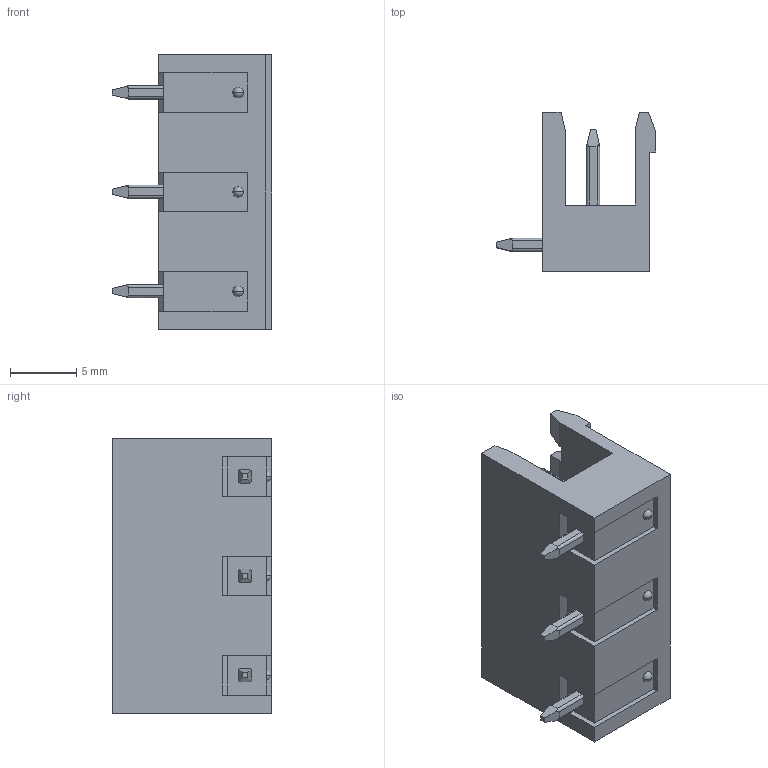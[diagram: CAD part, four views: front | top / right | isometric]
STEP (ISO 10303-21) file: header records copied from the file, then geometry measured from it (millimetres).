
FILE_DESCRIPTION((''),'2;1');
FILE_NAME('33','2019-04-09T',('zhenbing.lai'),(''),'CREO PARAMETRIC BY PTC INC, 2016260','CREO PARAMETRIC BY PTC INC, 2016260','');
FILE_SCHEMA(('CONFIG_CONTROL_DESIGN'));
Length unit declared in the file: millimetre
Products named in the file (1): 33
Bounding box: 12.05 x 12 x 20.7 mm (x, y, z)
Volume: 1178.4 mm3; surface area: 1365.2 mm2
Topology: 1 solids, 1 shells, 147 faces, 405 edges, 263 vertices
Faces by surface type: plane 111, cylinder 27, sphere 6, cone 3
Entity records: 4822 total; most frequent: CARTESIAN_POINT 1135, ORIENTED_EDGE 798, DIRECTION 684, EDGE_CURVE 399, VECTOR 300, LINE 300, VERTEX_POINT 263, AXIS2_PLACEMENT_3D 192
